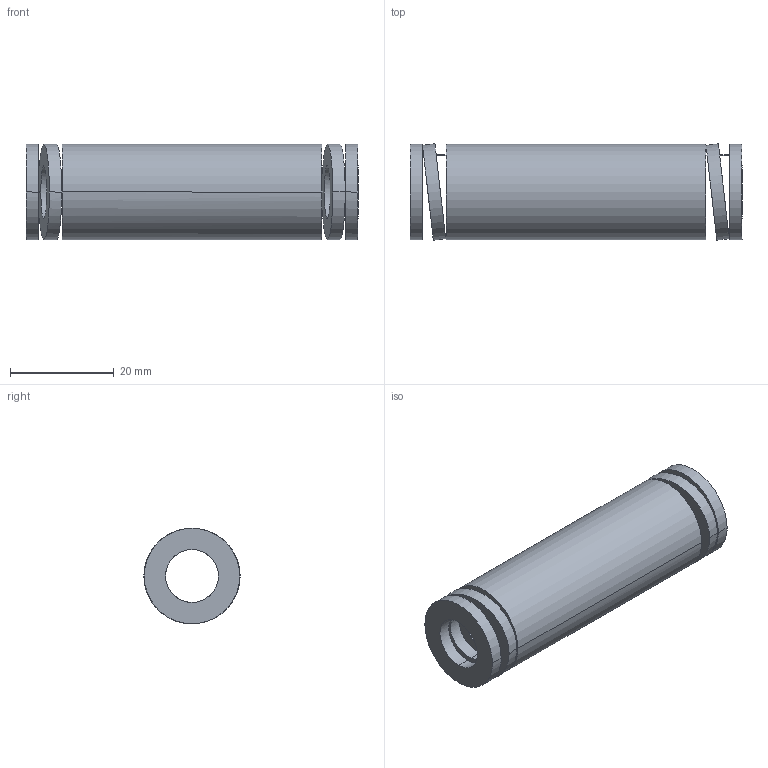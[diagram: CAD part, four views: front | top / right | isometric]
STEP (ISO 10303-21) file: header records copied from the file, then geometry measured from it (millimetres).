
FILE_DESCRIPTION(('CATIA V5 STEP Exchange'),'2;1');
FILE_NAME('C:\Users\Utente\Desktop\IO LAVORO\3D X SITO CF\X SITO\3D files 392B\392-B20-064.stp','2021-08-12T13:56:12+00:00',('none'),('none'),'CATIA Version 5 Release 20 GA (IN-10)','CATIA V5 STEP AP203','none');
FILE_SCHEMA(('CONFIG_CONTROL_DESIGN'));
Length unit declared in the file: millimetre
Products named in the file (1): 392-B20-064
Bounding box: 64 x 18.55 x 18.4 mm (x, y, z)
Volume: 10992.4 mm3; surface area: 7206.6 mm2
Topology: 1 solids, 1 shells, 38 faces, 92 edges, 64 vertices
Faces by surface type: cylinder 28, plane 10
Entity records: 1590 total; most frequent: CARTESIAN_POINT 707, ORIENTED_EDGE 184, DIRECTION 126, EDGE_CURVE 92, VERTEX_POINT 64, AXIS2_PLACEMENT_3D 61, EDGE_LOOP 56, B_SPLINE_CURVE_WITH_KNOTS 42
